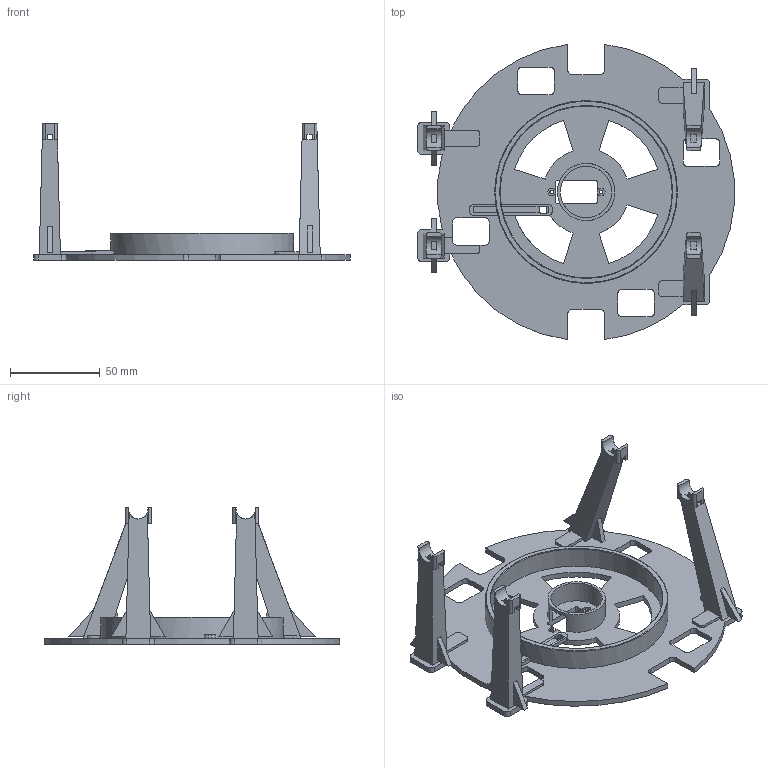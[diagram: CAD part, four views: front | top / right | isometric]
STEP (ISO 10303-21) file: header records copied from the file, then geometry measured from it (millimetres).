
FILE_DESCRIPTION(('Open CASCADE Model'),'2;1');
FILE_NAME('Open CASCADE Shape Model','2026-10-21T17:27:38',('Author'),( 'Open CASCADE'),'Open CASCADE STEP processor 7.9','Open CASCADE 7.9' ,'Unknown');
FILE_SCHEMA(('AUTOMOTIVE_DESIGN { 1 0 10303 214 1 1 1 1 }'));
Length unit declared in the file: millimetre
Products named in the file (1): Open CASCADE STEP translator 7.9 5
Bounding box: 176.7 x 164.67 x 76.2 mm (x, y, z)
Volume: 103683.2 mm3; surface area: 69223.5 mm2
Topology: 1 solids, 5 shells, 360 faces, 1042 edges, 688 vertices
Faces by surface type: plane 236, cylinder 90, bspline 32, cone 2
Full cylindrical faces by diameter (mm): 2.2 x2, 28.8 x1, 32 x1, 96 x1, 102 x1
Entity records: 27020 total; most frequent: CARTESIAN_POINT 7347, DIRECTION 3294, ORIENTED_EDGE 2084, PCURVE 2084, DEFINITIONAL_REPRESENTATION 2084, LINE 2040, VECTOR 2040, EDGE_CURVE 1042
